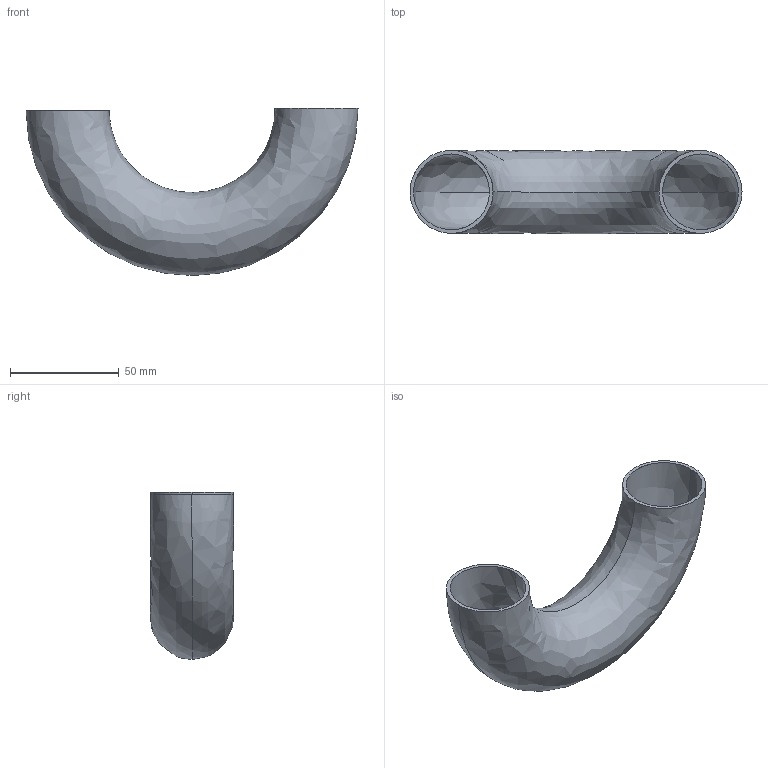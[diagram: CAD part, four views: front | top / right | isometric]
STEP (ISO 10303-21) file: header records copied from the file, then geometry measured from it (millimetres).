
FILE_DESCRIPTION (( 'STEP AP203' ), '1' );
FILE_NAME ('E2WU1.5.STEP', '2018-04-30T18:26:46', ( 'vneprd' ), ( 'Microsoft' ), 'SwSTEP 2.0', 'SolidWorks 2014', '' );
FILE_SCHEMA (( 'CONFIG_CONTROL_DESIGN' ));
Length unit declared in the file: inch
Products named in the file (1): E2WU1.5
Bounding box: 152.4 x 38.1 x 76.71 mm (x, y, z)
Volume: 33943.7 mm3; surface area: 41495.1 mm2
Topology: 1 solids, 1 shells, 10 faces, 22 edges, 14 vertices
Faces by surface type: bspline 8, plane 2
Entity records: 5807 total; most frequent: CARTESIAN_POINT 5541, ORIENTED_EDGE 44, DIRECTION 26, EDGE_CURVE 22, VERTEX_POINT 14, AXIS2_PLACEMENT_3D 13, EDGE_LOOP 12, B_SPLINE_CURVE_WITH_KNOTS 12
